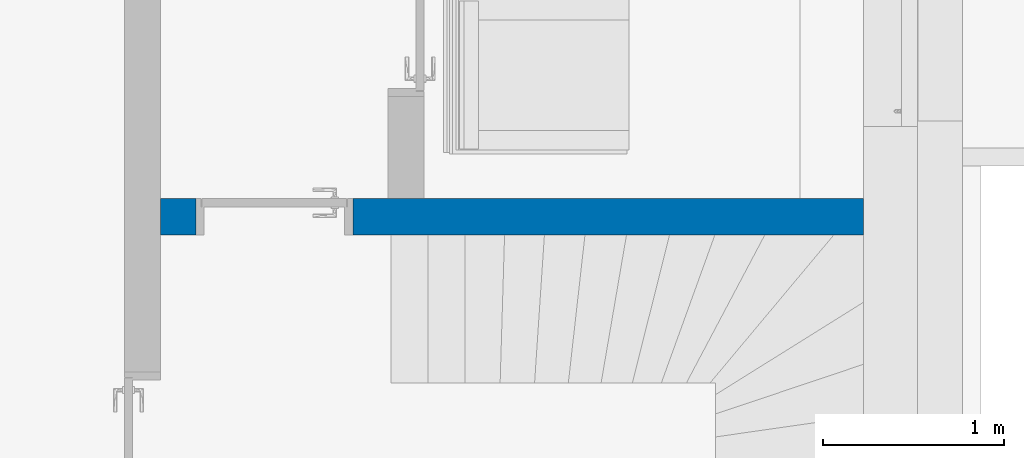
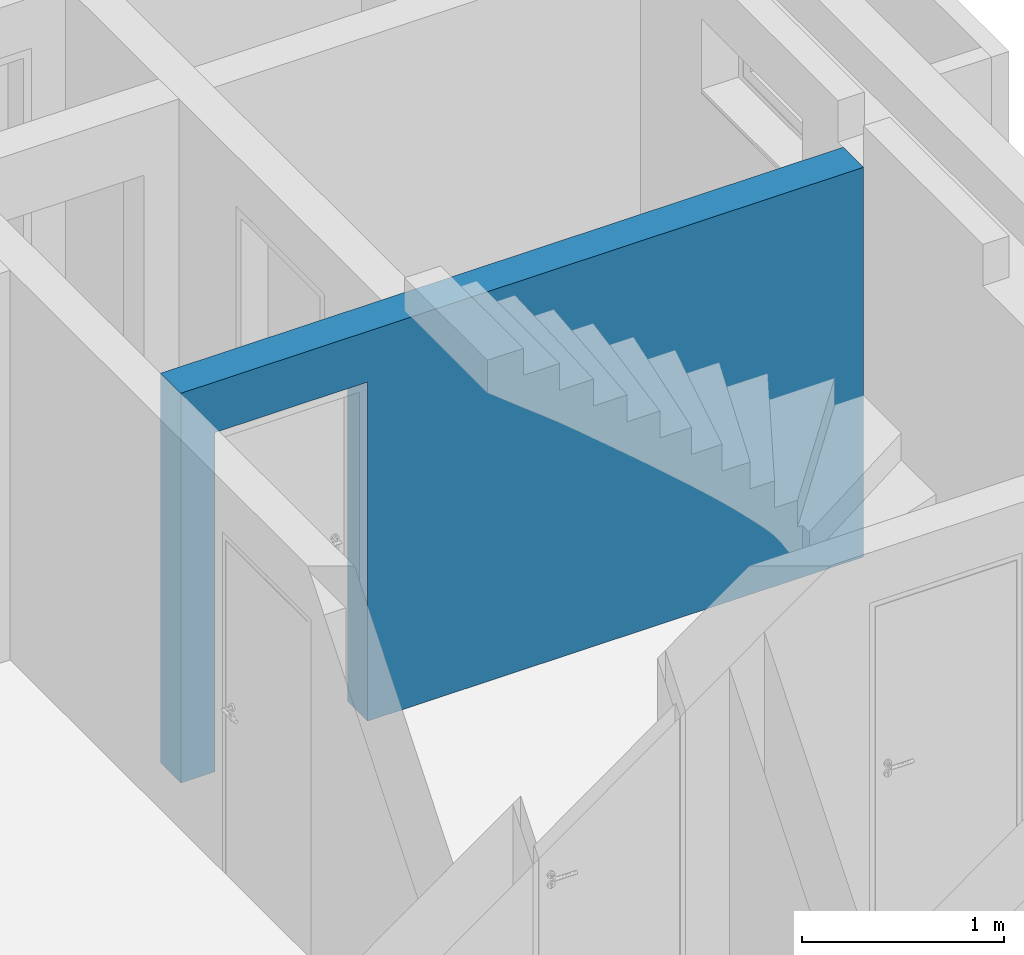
# One storey, part 10 of 22: 1 wall, 1 opening.
"""IFC2X3 building model written with IfcOpenShell, lengths in metres."""

from ifc_helpers import new_model, entity, si_unit, converted_unit, derived_unit, direction, frame, frame_2d, origin, place, context, subcontext, project, spatial, polyline, rectangle, extrude, clip, bounded_halfspace, material, layer, layer_set, layer_usage, type_object, element, save


model = new_model("IFC2X3")

# Units and contexts
model_context = context("Model", 3, precision=1e-05, world=origin(), true_north=direction((6.123233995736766e-17, 1.0)))
body_context = subcontext(model_context, "Body", "Model", "MODEL_VIEW")
ifc_project = project(units=[si_unit("LENGTHUNIT", "METRE"), si_unit("AREAUNIT", "SQUARE_METRE"), si_unit("VOLUMEUNIT", "CUBIC_METRE"), si_unit("POWERUNIT", "WATT"), derived_unit("USERDEFINED", [(si_unit("MASSUNIT", "GRAM", prefix="KILO"), 1), (si_unit("TIMEUNIT", "SECOND"), -3)]), derived_unit("THERMALRESISTANCEUNIT", [(si_unit("MASSUNIT", "GRAM", prefix="KILO"), -1), (si_unit("TIMEUNIT", "SECOND"), 3), (si_unit("THERMODYNAMICTEMPERATUREUNIT", "KELVIN"), 1)]), derived_unit("USERDEFINED", [(si_unit("MASSUNIT", "GRAM", prefix="KILO"), 1), (si_unit("TIMEUNIT", "SECOND"), -2), (si_unit("THERMODYNAMICTEMPERATUREUNIT", "KELVIN"), -1)]), derived_unit("THERMALTRANSMITTANCEUNIT", [(si_unit("MASSUNIT", "GRAM", prefix="KILO"), 1), (si_unit("TIMEUNIT", "SECOND"), -3), (si_unit("THERMODYNAMICTEMPERATUREUNIT", "KELVIN"), -1)]), converted_unit("PLANEANGLEUNIT", "DEGREE", entity("IfcPlaneAngleMeasure", 0.017453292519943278), si_unit("PLANEANGLEUNIT", "RADIAN"), dimensions=[0, 0, 0, 0, 0, 0, 0]), derived_unit("MOMENTOFINERTIAUNIT", [(si_unit("LENGTHUNIT", "METRE"), 4)])], contexts=[model_context])

# Site, building, storey
site_placement = place(None, origin())
site = spatial("IfcSite", under=ifc_project, at=site_placement, Name="Default", CompositionType="ELEMENT")
building_placement = place(site_placement, origin())
building = spatial("IfcBuilding", under=site, at=building_placement, CompositionType="ELEMENT")
storey_placement = place(building_placement, origin())
storey = spatial("IfcBuildingStorey", under=building, at=storey_placement, Name="Untergeschoss", CompositionType="ELEMENT", Elevation=0.0)

# Wall, opening
ifc_material = material(Name="Mauerwerk - Ziegel")
ifc_layer = layer(ifc_material, 0.2)
ifc_layer_set = layer_set([ifc_layer], Name="Basiswand:Ziegel 200")
ifc_layer_usage = layer_usage(ifc_layer_set, "AXIS2", "NEGATIVE", 0.1)
wall_type = type_object("IfcWallType", Name="Basiswand:Ziegel 200", PredefinedType="STANDARD", material=ifc_layer_set)
wall_placement = place(storey_placement, frame((34.183754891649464, 23.18227237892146, 0.0)))
wall = element("IfcWallStandardCase", 1, at=wall_placement, inside=storey, type_object=wall_type, material=ifc_layer_usage, Name="Basiswand:Ziegel 200", ObjectType="Basiswand:Ziegel 200", context=body_context, shape_type="Clipping", body=[
    clip(extrude(rectangle(XDim=3.892965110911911, YDim=0.20000000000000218, at=frame_2d((1.9464825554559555, -2.1649348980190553e-15), x_axis=(-1.0, 0.0))), origin(), (0.0, 0.0, 1.0), 2.35), bounded_halfspace(frame((3.892965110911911, 0.09999999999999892, 2.35), z_axis=(0.0, 0.0, -1.0), x_axis=(1.0, 0.0, 0.0)), True, frame((3.892965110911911, 0.09999999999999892, 2.35)), polyline([(0.0, 0.0), (-3.8929651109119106, 0.0), (-3.8929651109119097, -0.20000000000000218), (-2.620000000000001, -0.20000000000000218), (0.0, -0.20000000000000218), (0.0, 0.0)]))),
])
opening_placement = place(wall_placement, frame((0.1950000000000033, -0.09999999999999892, -0.18000000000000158)))
element("IfcOpeningElement", 2, at=opening_placement, cuts=wall, Name="TU DF 1 - Rahmenstock flächenbündig:DL - 780 x 2000:1", ObjectType="Opening", context=body_context, shape_type="SweptSolid", body=[
    extrude(rectangle(XDim=2.224999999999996, YDim=0.8699999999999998, at=frame_2d((1.1124999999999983, 0.4350000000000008), x_axis=(-1.0, 0.0))), frame((0.0, 0.0, 0.0), z_axis=(0.0, 1.0, 0.0), x_axis=(0.0, 0.0, 1.0)), (0.0, 0.0, 1.0), 0.2),
])

save(model, "model.ifc")
